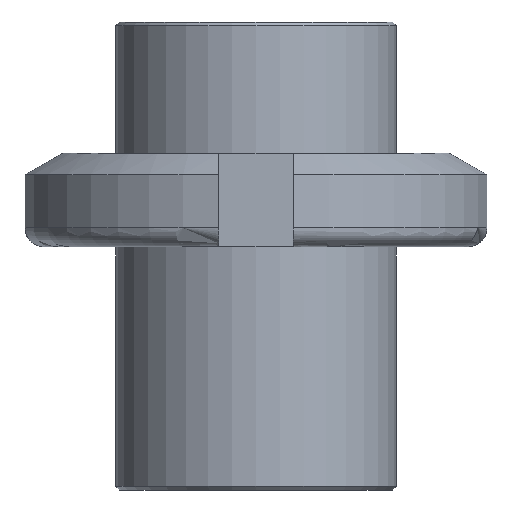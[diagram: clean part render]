
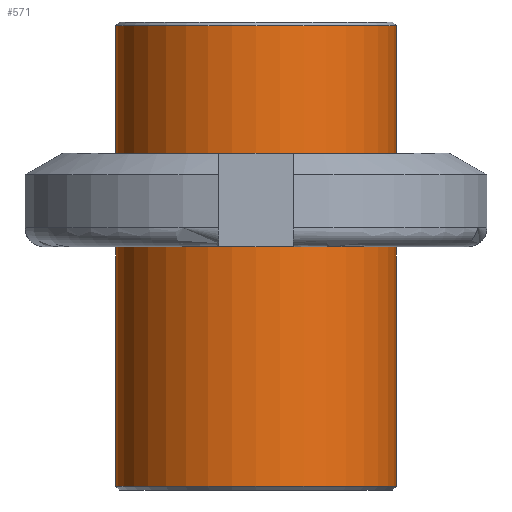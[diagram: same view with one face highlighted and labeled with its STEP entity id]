
A CAD part, front view. The second image highlights one B-rep face of the part: STEP entity #571.
In plain terms, the highlighted cylindrical face has radius 7.5 mm (diameter 15 mm), a full revolution.
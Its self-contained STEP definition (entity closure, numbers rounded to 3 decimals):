
#133=CYLINDRICAL_SURFACE('',#613,7.5);
#141=FACE_BOUND('',#189,.T.);
#155=FACE_OUTER_BOUND('',#188,.T.);
#188=EDGE_LOOP('',(#400));
#189=EDGE_LOOP('',(#401));
#232=CIRCLE('',#611,7.5);
#234=CIRCLE('',#614,7.5);
#258=VERTEX_POINT('',#841);
#260=VERTEX_POINT('',#846);
#316=EDGE_CURVE('',#258,#258,#232,.T.);
#318=EDGE_CURVE('',#260,#260,#234,.T.);
#400=ORIENTED_EDGE('',*,*,#318,.F.);
#401=ORIENTED_EDGE('',*,*,#316,.F.);
#571=ADVANCED_FACE('',(#155,#141),#133,.T.);
#611=AXIS2_PLACEMENT_3D('',#842,#679,#680);
#613=AXIS2_PLACEMENT_3D('',#845,#683,#684);
#614=AXIS2_PLACEMENT_3D('',#847,#685,#686);
#679=DIRECTION('center_axis',(0.,0.,-1.));
#680=DIRECTION('ref_axis',(-1.,0.,0.));
#683=DIRECTION('center_axis',(0.,0.,1.));
#684=DIRECTION('ref_axis',(-1.,0.,0.));
#685=DIRECTION('center_axis',(0.,0.,1.));
#686=DIRECTION('ref_axis',(-1.,0.,0.));
#841=CARTESIAN_POINT('',(7.5,0.,0.2));
#842=CARTESIAN_POINT('Origin',(0.,0.,0.2));
#845=CARTESIAN_POINT('Origin',(0.,0.,0.));
#846=CARTESIAN_POINT('',(7.5,0.,24.8));
#847=CARTESIAN_POINT('Origin',(0.,0.,24.8));
